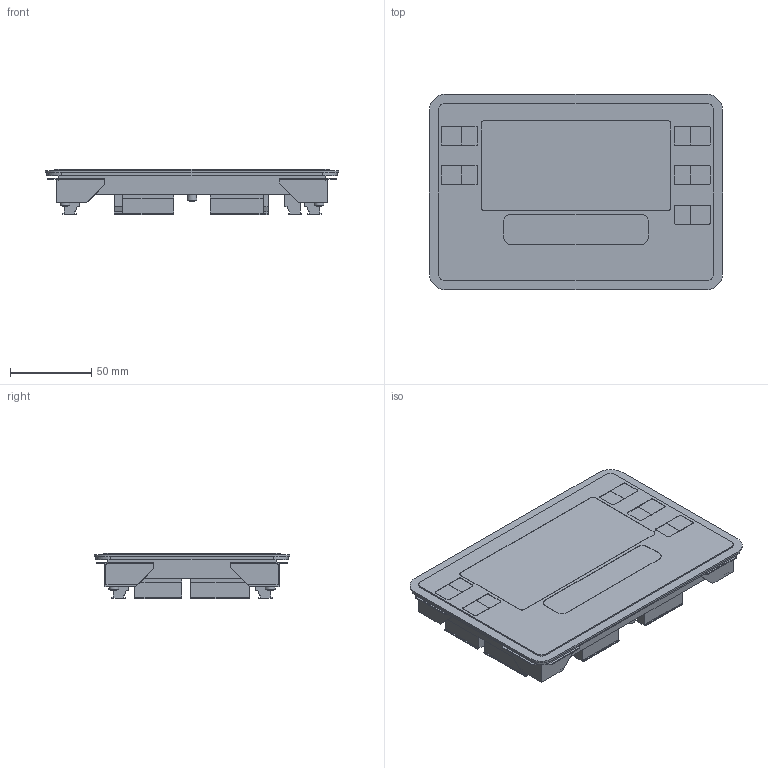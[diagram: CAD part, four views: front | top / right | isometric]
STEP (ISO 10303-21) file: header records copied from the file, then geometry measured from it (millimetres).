
FILE_DESCRIPTION(/* description */ ('STEP AP203'),/* implementation_level */ '2;1');
FILE_NAME(/* name */ '3104CS',/* time_stamp */ '2023-10-23T13:26:40+02:00',/* author */ ('License CC BY-ND 4.0'),/* organization */ ('CADENAS'),/* preprocessor_version */ 'ST-DEVELOPER v19.3',/* originating_system */ 'PARTsolutions',/* authorisation */ ' ');
FILE_SCHEMA (('CONFIG_CONTROL_DESIGN'));
Length unit declared in the file: millimetre
Products named in the file (3): 3104CS; 31XXCS_CLIP; 3104CS_BODY
Assembly tree (5 placements, depth 2):
  3104CS
    31XXCS_CLIP  x4
    3104CS_BODY
Bounding box: 180 x 120 x 27.7 mm (x, y, z)
Volume: 298555.7 mm3; surface area: 72709.7 mm2
Topology: 5 solids, 5 shells, 524 faces, 1414 edges, 938 vertices
Faces by surface type: plane 416, cylinder 90, cone 12, sphere 6
Full cylindrical faces by diameter (mm): 2 x2, 2.459 x4, 3 x4, 3.5 x4, 4 x4, 4.8 x4, 6 x6
Entity records: 14314 total; most frequent: CARTESIAN_POINT 2122, ORIENTED_EDGE 2012, DIRECTION 1985, EDGE_CURVE 1006, LINE 797, VECTOR 797, VERTEX_POINT 687, AXIS2_PLACEMENT_3D 594
